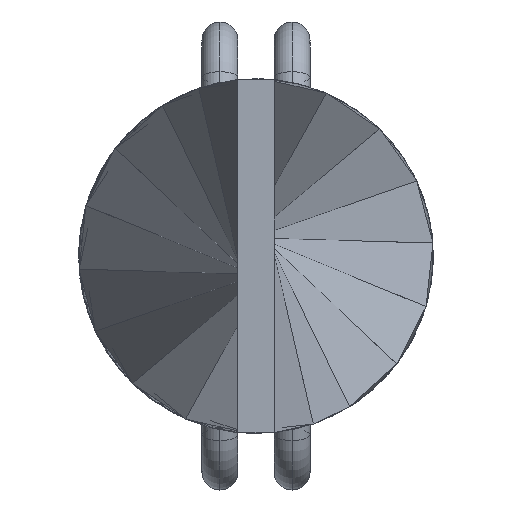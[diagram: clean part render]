
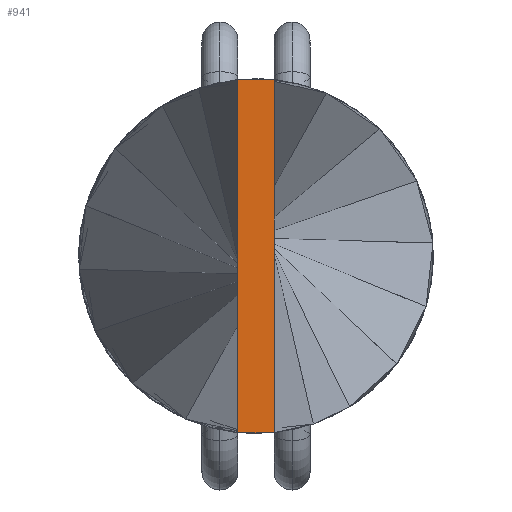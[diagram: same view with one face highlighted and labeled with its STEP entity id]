
A CAD part, left-side view. The second image highlights one B-rep face of the part: STEP entity #941.
In plain terms, the highlighted planar face has unit normal (-1, 0, 0).
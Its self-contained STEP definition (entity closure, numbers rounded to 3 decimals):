
#4 = LINE ( 'NONE', #521, #1659 ) ;
#176 = CARTESIAN_POINT ( 'NONE',  ( -200., 0.5, 4.9 ) ) ;
#243 = ORIENTED_EDGE ( 'NONE', *, *, #3697, .T. ) ;
#395 = CARTESIAN_POINT ( 'NONE',  ( -200., -0.5, 4.9 ) ) ;
#471 = VECTOR ( 'NONE', #3010, 1000. ) ;
#521 = CARTESIAN_POINT ( 'NONE',  ( -200., 0.5, -4.9 ) ) ;
#659 = VECTOR ( 'NONE', #2378, 1000. ) ;
#830 = CARTESIAN_POINT ( 'NONE',  ( -200., -0.5, 4.9 ) ) ;
#941 = ADVANCED_FACE ( 'NONE', ( #2978 ), #1318, .T. ) ;
#1054 = DIRECTION ( 'NONE',  ( 0., 0., 1. ) ) ;
#1057 = EDGE_CURVE ( 'NONE', #1966, #4044, #3609, .T. ) ;
#1074 = VERTEX_POINT ( 'NONE', #2883 ) ;
#1129 = VECTOR ( 'NONE', #2857, 1000. ) ;
#1200 = LINE ( 'NONE', #830, #471 ) ;
#1318 = PLANE ( 'NONE',  #2952 ) ;
#1354 = CARTESIAN_POINT ( 'NONE',  ( -200., 0., 0. ) ) ;
#1364 = DIRECTION ( 'NONE',  ( -1., 0., 0. ) ) ;
#1380 = EDGE_CURVE ( 'NONE', #4044, #1074, #1200, .T. ) ;
#1408 = VERTEX_POINT ( 'NONE', #2713 ) ;
#1588 = CARTESIAN_POINT ( 'NONE',  ( -200., -0.5, -4.9 ) ) ;
#1659 = VECTOR ( 'NONE', #2383, 1000. ) ;
#1966 = VERTEX_POINT ( 'NONE', #2610 ) ;
#2015 = EDGE_LOOP ( 'NONE', ( #2097, #4017, #2840, #243 ) ) ;
#2097 = ORIENTED_EDGE ( 'NONE', *, *, #3551, .T. ) ;
#2378 = DIRECTION ( 'NONE',  ( 0., 0., -1. ) ) ;
#2383 = DIRECTION ( 'NONE',  ( 0., -1., 0. ) ) ;
#2610 = CARTESIAN_POINT ( 'NONE',  ( -200., -0.5, -4.9 ) ) ;
#2713 = CARTESIAN_POINT ( 'NONE',  ( -200., 0.5, -4.9 ) ) ;
#2840 = ORIENTED_EDGE ( 'NONE', *, *, #1380, .T. ) ;
#2857 = DIRECTION ( 'NONE',  ( 0., 0., 1. ) ) ;
#2883 = CARTESIAN_POINT ( 'NONE',  ( -200., 0.5, 4.9 ) ) ;
#2952 = AXIS2_PLACEMENT_3D ( 'NONE', #1354, #1364, #1054 ) ;
#2978 = FACE_OUTER_BOUND ( 'NONE', #2015, .T. ) ;
#3010 = DIRECTION ( 'NONE',  ( 0., 1., 0. ) ) ;
#3040 = LINE ( 'NONE', #176, #659 ) ;
#3551 = EDGE_CURVE ( 'NONE', #1408, #1966, #4, .T. ) ;
#3609 = LINE ( 'NONE', #1588, #1129 ) ;
#3697 = EDGE_CURVE ( 'NONE', #1074, #1408, #3040, .T. ) ;
#4017 = ORIENTED_EDGE ( 'NONE', *, *, #1057, .T. ) ;
#4044 = VERTEX_POINT ( 'NONE', #395 ) ;
